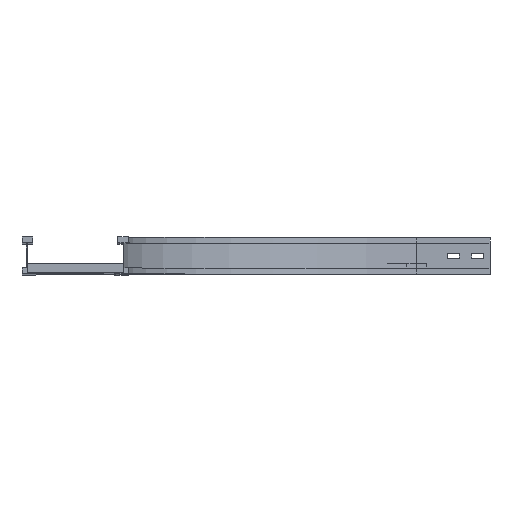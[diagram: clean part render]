
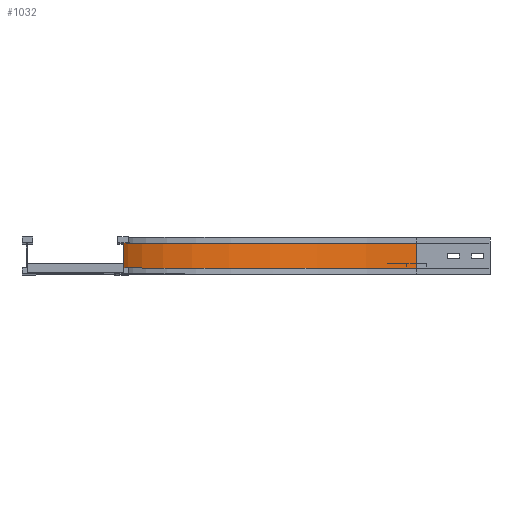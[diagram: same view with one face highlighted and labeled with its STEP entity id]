
A CAD part, top view. The second image highlights one B-rep face of the part: STEP entity #1032.
In plain terms, the highlighted cylindrical face has radius 600 mm (diameter 1200 mm), a partial arc.
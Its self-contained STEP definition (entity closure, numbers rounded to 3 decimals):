
#12 = CARTESIAN_POINT ( 'NONE',  ( 591., 63., -150. ) ) ;
#178 = CARTESIAN_POINT ( 'NONE',  ( 591., 63., -750. ) ) ;
#525 = ORIENTED_EDGE ( 'NONE', *, *, #3565, .T. ) ;
#544 = DIRECTION ( 'NONE',  ( 0., -1., 0. ) ) ;
#643 = AXIS2_PLACEMENT_3D ( 'NONE', #12, #2574, #1746 ) ;
#661 = CARTESIAN_POINT ( 'NONE',  ( -9., 12., -150. ) ) ;
#730 = VERTEX_POINT ( 'NONE', #3426 ) ;
#858 = CARTESIAN_POINT ( 'NONE',  ( 591., 12., -750. ) ) ;
#940 = VERTEX_POINT ( 'NONE', #2677 ) ;
#956 = AXIS2_PLACEMENT_3D ( 'NONE', #1055, #544, #1676 ) ;
#1032 = ADVANCED_FACE ( 'NONE', ( #3293 ), #1091, .F. ) ;
#1055 = CARTESIAN_POINT ( 'NONE',  ( 591., 0., -150. ) ) ;
#1091 = CYLINDRICAL_SURFACE ( 'NONE', #956, 600. ) ;
#1101 = DIRECTION ( 'NONE',  ( 0., 1., 0. ) ) ;
#1286 = ORIENTED_EDGE ( 'NONE', *, *, #3368, .F. ) ;
#1538 = ORIENTED_EDGE ( 'NONE', *, *, #2865, .T. ) ;
#1576 = CARTESIAN_POINT ( 'NONE',  ( -9., 63., -150. ) ) ;
#1666 = VERTEX_POINT ( 'NONE', #178 ) ;
#1676 = DIRECTION ( 'NONE',  ( 0., 0., -1. ) ) ;
#1703 = CIRCLE ( 'NONE', #2062, 600. ) ;
#1746 = DIRECTION ( 'NONE',  ( -1., 0., 0. ) ) ;
#1952 = LINE ( 'NONE', #858, #2194 ) ;
#2062 = AXIS2_PLACEMENT_3D ( 'NONE', #2347, #3479, #3511 ) ;
#2161 = VECTOR ( 'NONE', #2989, 1000. ) ;
#2194 = VECTOR ( 'NONE', #1101, 1000. ) ;
#2310 = EDGE_LOOP ( 'NONE', ( #3429, #1286, #525, #1538 ) ) ;
#2347 = CARTESIAN_POINT ( 'NONE',  ( 591., 12., -150. ) ) ;
#2421 = CIRCLE ( 'NONE', #643, 600. ) ;
#2424 = LINE ( 'NONE', #661, #2161 ) ;
#2574 = DIRECTION ( 'NONE',  ( 0., -1., 0. ) ) ;
#2677 = CARTESIAN_POINT ( 'NONE',  ( -9., 12., -150. ) ) ;
#2764 = VERTEX_POINT ( 'NONE', #1576 ) ;
#2865 = EDGE_CURVE ( 'NONE', #730, #1666, #1952, .T. ) ;
#2989 = DIRECTION ( 'NONE',  ( 0., 1., 0. ) ) ;
#2999 = EDGE_CURVE ( 'NONE', #2764, #1666, #2421, .T. ) ;
#3293 = FACE_OUTER_BOUND ( 'NONE', #2310, .T. ) ;
#3368 = EDGE_CURVE ( 'NONE', #940, #2764, #2424, .T. ) ;
#3426 = CARTESIAN_POINT ( 'NONE',  ( 591., 12., -750. ) ) ;
#3429 = ORIENTED_EDGE ( 'NONE', *, *, #2999, .F. ) ;
#3479 = DIRECTION ( 'NONE',  ( 0., -1., 0. ) ) ;
#3511 = DIRECTION ( 'NONE',  ( -1., 0., 0. ) ) ;
#3565 = EDGE_CURVE ( 'NONE', #940, #730, #1703, .T. ) ;
